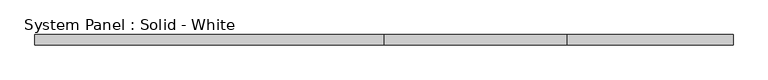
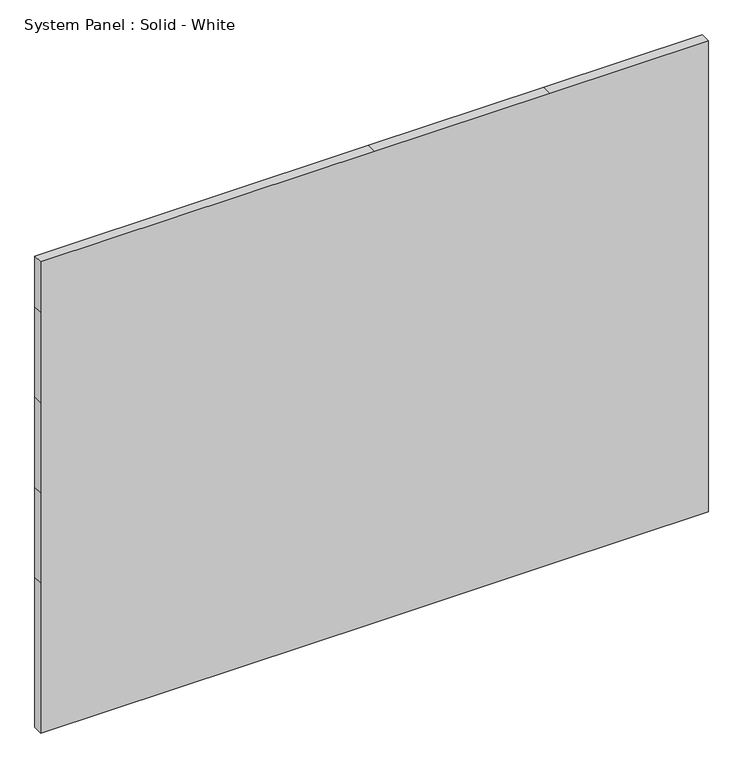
"""IFC4 building model written with IfcOpenShell, lengths in millimetres: plate geometry, System Panel : Solid - White."""

from ifc_helpers import new_model, si_unit, frame, origin, place, context, project, spatial, polyline, outline, extrude, source, transform, mapped, element, save


def system_panel_solid_white_46dfe60e(model_context):
    return source(origin(), model_context, "Body", "SweptSolid", [
        extrude(outline(polyline([(0.0, -2136.3214286), (0.0, 0.0), (0.0, 1122.5892857), (0.0, 2136.3214286), (1016.1395219, 2136.3214286), (1625.7395219, 2136.3214286), (2235.3395219, 2136.3214286), (2844.9395219, 2136.3214286), (3187.5604781, 2136.3214286), (3187.5604781, 1122.5892857), (3187.5604781, 0.0), (3187.5604781, -2136.3214286), (2844.9395219, -2136.3214286), (2235.3395219, -2136.3214286), (1625.7395219, -2136.3214286), (1016.1395219, -2136.3214286), (0.0, -2136.3214286)])), frame((0.0, -19.05, 0.0), z_axis=(0.0, 1.0, 0.0), x_axis=(0.0, 0.0, 1.0)), (0.0, 0.0, 1.0), 63.5),
    ])


if __name__ == "__main__":
    model = new_model("IFC4")
    model_context = context("Model", 3, world=origin())
    ifc_project = project(units=[si_unit("LENGTHUNIT", "METRE", prefix="MILLI")], contexts=[model_context])
    site = spatial("IfcSite", under=ifc_project)
    building = spatial("IfcBuilding", under=site)
    placement = place(None, origin())
    system_panel_solid_white_shape = system_panel_solid_white_46dfe60e(model_context)
    element("IfcPlate", 1, ObjectType="System Panel : Solid - White", at=placement, inside=building, context=model_context, shape_type="MappedRepresentation", body=[
        mapped(system_panel_solid_white_shape, transform((0.0, 0.0, 0.0), x_axis=(1.0, 0.0, 0.0), y_axis=(0.0, 1.0, 0.0), z_axis=(0.0, 0.0, 1.0))),
    ])
    save(model, "model.ifc")
